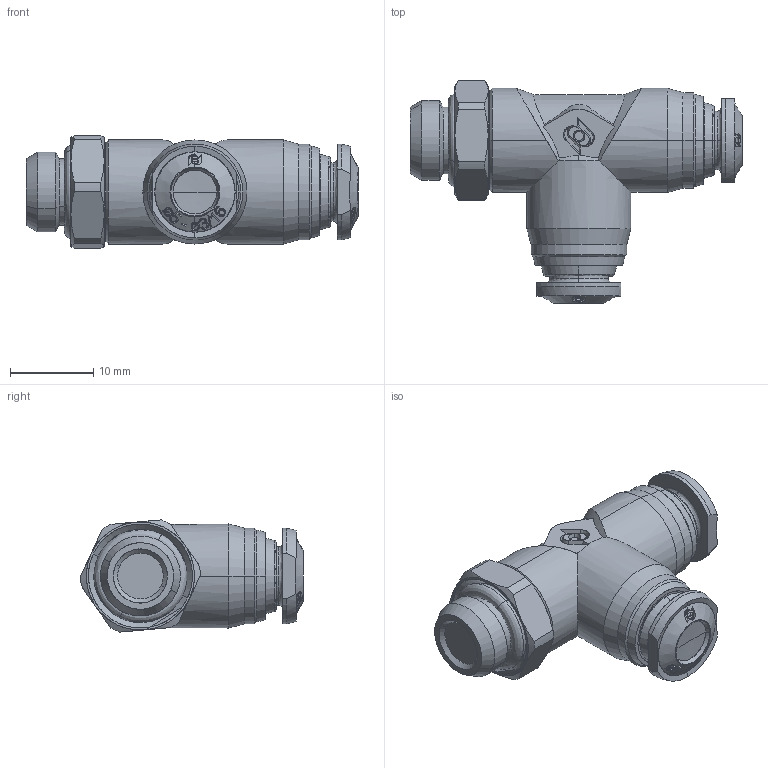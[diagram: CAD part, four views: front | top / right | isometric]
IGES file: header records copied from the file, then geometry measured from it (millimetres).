
Start section: SolidWorks IGES file using analytic representation for surfaces
Global section: file name: K:\Disegni Esecutivi\Serie 50000\ASSIEMI_50000\50226\ASSIEMI_.IGES_50226\5022600006B.IGS; native system: SolidWorks 2009; preprocessor: SolidWorks 2009; author: cad05; date: 090706.145447; units: millimetre
Bounding box: 39.9 x 26.8 x 13.5 mm (x, y, z)
Surface area: 3739.1 mm2 (no closed solid volume)
Topology: 0 solids, 0 shells, 586 faces, 6135 edges, 6127 vertices
Faces by surface type: bspline 361, revolution 225
